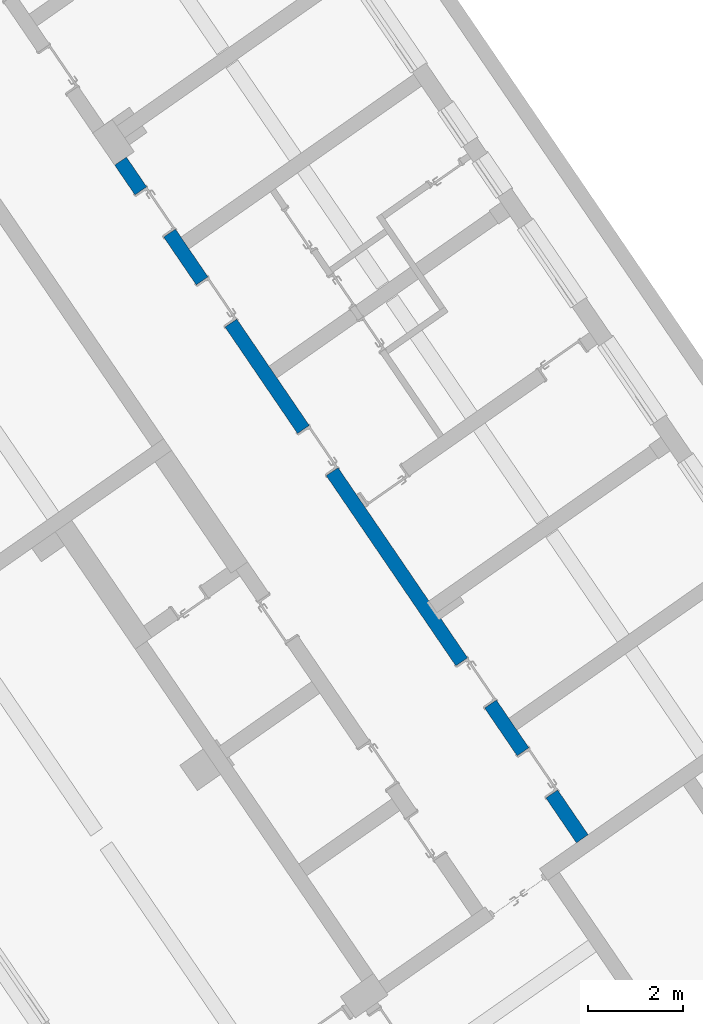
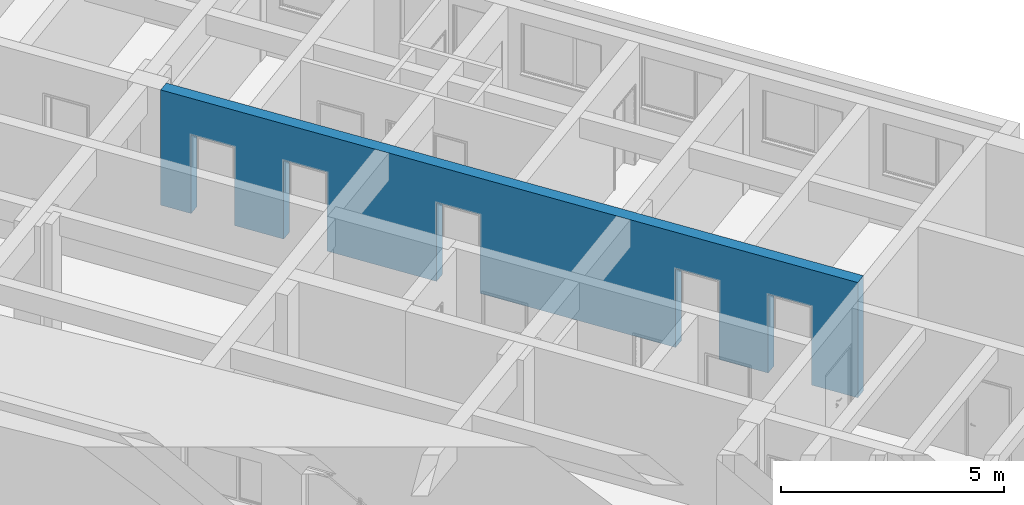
# One storey, part 49 of 112: 1 wall, 5 openings.
"""IFC2X3 building model written with IfcOpenShell, lengths in millimetres."""

from ifc_helpers import new_model, entity, si_unit, converted_unit, derived_unit, direction, frame, frame_2d, origin, place, context, subcontext, project, spatial, polyline, rectangle, outline, extrude, material, layer, layer_set, layer_usage, type_object, element, save


model = new_model("IFC2X3")

# Units and contexts
model_context = context("Model", 3, precision=0.01, world=origin(), true_north=direction((6.123031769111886e-17, 1.0)))
body_context = subcontext(model_context, "Body", "Model", "MODEL_VIEW")
ifc_project = project(units=[si_unit("LENGTHUNIT", "METRE", prefix="MILLI"), si_unit("AREAUNIT", "SQUARE_METRE"), si_unit("VOLUMEUNIT", "CUBIC_METRE"), converted_unit("PLANEANGLEUNIT", "DEGREE", entity("IfcRatioMeasure", 0.017453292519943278), si_unit("PLANEANGLEUNIT", "RADIAN"), dimensions=[0, 0, 0, 0, 0, 0, 0]), si_unit("MASSUNIT", "GRAM", prefix="KILO"), derived_unit("MASSDENSITYUNIT", [(si_unit("MASSUNIT", "GRAM", prefix="KILO"), 1), (si_unit("LENGTHUNIT", "METRE"), -3)]), derived_unit("MOMENTOFINERTIAUNIT", [(si_unit("LENGTHUNIT", "METRE"), 4)]), si_unit("TIMEUNIT", "SECOND"), si_unit("FREQUENCYUNIT", "HERTZ"), si_unit("THERMODYNAMICTEMPERATUREUNIT", "DEGREE_CELSIUS"), derived_unit("THERMALTRANSMITTANCEUNIT", [(si_unit("MASSUNIT", "GRAM", prefix="KILO"), 1), (si_unit("THERMODYNAMICTEMPERATUREUNIT", "KELVIN"), -1), (si_unit("TIMEUNIT", "SECOND"), -3)]), derived_unit("THERMALCONDUCTANCEUNIT", [(si_unit("MASSUNIT", "GRAM", prefix="KILO"), 1), (si_unit("LENGTHUNIT", "METRE"), 1), (si_unit("THERMODYNAMICTEMPERATUREUNIT", "KELVIN"), -1), (si_unit("TIMEUNIT", "SECOND"), -3)]), derived_unit("VOLUMETRICFLOWRATEUNIT", [(si_unit("LENGTHUNIT", "METRE"), 3), (si_unit("TIMEUNIT", "SECOND"), -1)]), derived_unit("MASSFLOWRATEUNIT", [(si_unit("MASSUNIT", "GRAM", prefix="KILO"), 1), (si_unit("TIMEUNIT", "SECOND"), -1)]), derived_unit("ROTATIONALFREQUENCYUNIT", [(si_unit("TIMEUNIT", "SECOND"), -1)]), si_unit("ELECTRICCURRENTUNIT", "AMPERE"), si_unit("ELECTRICVOLTAGEUNIT", "VOLT"), si_unit("POWERUNIT", "WATT"), converted_unit("FORCEUNIT", "KIP", entity("IfcRatioMeasure", 2.088543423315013e-05), si_unit("FORCEUNIT", "NEWTON"), dimensions=[1, 1, -2, 0, 0, 0, 0]), si_unit("ILLUMINANCEUNIT", "LUX"), si_unit("LUMINOUSFLUXUNIT", "LUMEN"), si_unit("LUMINOUSINTENSITYUNIT", "CANDELA"), derived_unit("USERDEFINED", [(si_unit("MASSUNIT", "GRAM", prefix="KILO"), -1), (si_unit("LENGTHUNIT", "METRE"), -2), (si_unit("TIMEUNIT", "SECOND"), 3), (si_unit("LUMINOUSFLUXUNIT", "LUMEN"), 1)]), derived_unit("USERDEFINED", [(si_unit("MASSUNIT", "GRAM", prefix="KILO"), 1), (si_unit("LENGTHUNIT", "METRE"), 3), (si_unit("TIMEUNIT", "SECOND"), -3), (si_unit("ELECTRICCURRENTUNIT", "AMPERE"), -2)]), derived_unit("USERDEFINED", [(si_unit("LENGTHUNIT", "METRE"), 2), (si_unit("TIMEUNIT", "SECOND"), -2)]), derived_unit("SOUNDPOWERUNIT", [(si_unit("MASSUNIT", "GRAM", prefix="KILO"), 1), (si_unit("LENGTHUNIT", "METRE"), 2), (si_unit("TIMEUNIT", "SECOND"), -3)]), derived_unit("SOUNDPRESSUREUNIT", [(si_unit("MASSUNIT", "GRAM", prefix="KILO"), 1), (si_unit("LENGTHUNIT", "METRE"), -1), (si_unit("TIMEUNIT", "SECOND"), -2)]), derived_unit("LINEARVELOCITYUNIT", [(si_unit("LENGTHUNIT", "METRE"), 1), (si_unit("TIMEUNIT", "SECOND"), -1)]), si_unit("PRESSUREUNIT", "PASCAL"), derived_unit("USERDEFINED", [(si_unit("LENGTHUNIT", "METRE"), -2), (si_unit("MASSUNIT", "GRAM", prefix="KILO"), 1), (si_unit("TIMEUNIT", "SECOND"), -2)]), derived_unit("LINEARFORCEUNIT", [(si_unit("MASSUNIT", "GRAM", prefix="KILO"), 1), (si_unit("LENGTHUNIT", "METRE"), 1), (si_unit("TIMEUNIT", "SECOND"), -2), (si_unit("LENGTHUNIT", "METRE"), -1)]), derived_unit("PLANARFORCEUNIT", [(si_unit("MASSUNIT", "GRAM", prefix="KILO"), 1), (si_unit("LENGTHUNIT", "METRE"), 1), (si_unit("TIMEUNIT", "SECOND"), -2), (si_unit("LENGTHUNIT", "METRE"), -2)]), derived_unit("SPECIFICHEATCAPACITYUNIT", [(si_unit("LENGTHUNIT", "METRE"), 2), (si_unit("TIMEUNIT", "SECOND"), -2), (si_unit("THERMODYNAMICTEMPERATUREUNIT", "KELVIN"), -1)]), derived_unit("VAPORPERMEABILITYUNIT", [(si_unit("TIMEUNIT", "SECOND"), 1), (si_unit("LENGTHUNIT", "METRE"), -1)]), derived_unit("DYNAMICVISCOSITYUNIT", [(si_unit("MASSUNIT", "GRAM", prefix="KILO"), 1), (si_unit("LENGTHUNIT", "METRE"), -1), (si_unit("TIMEUNIT", "SECOND"), -1)]), derived_unit("THERMALEXPANSIONCOEFFICIENTUNIT", [(si_unit("THERMODYNAMICTEMPERATUREUNIT", "KELVIN"), -1)])], contexts=[model_context])

# Site, building, storey
site_placement = place(None, frame((0.0, 0.0, 0.0), z_axis=(0.0, 0.0, 1.0), x_axis=(0.8191520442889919, 0.5735764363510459, 0.0)))
site = spatial("IfcSite", under=ifc_project, at=site_placement, Name="Default", CompositionType="ELEMENT")
building_placement = place(site_placement, origin())
building = spatial("IfcBuilding", under=site, at=building_placement, CompositionType="ELEMENT")
storey_placement = place(building_placement, frame((0.0, 0.0, -3600.0)))
storey = spatial("IfcBuildingStorey", under=building, at=storey_placement, Name="0.UG -3.60", CompositionType="ELEMENT", Elevation=-3600.0000000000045)

# Wall, openings
ifc_material = material(Name="Analytical Wall Surface_CJC")
ifc_layer = layer(ifc_material, 300.0)
ifc_layer_set = layer_set([ifc_layer], Name="Basic Wall:Wand_Innen_30")
ifc_layer_usage = layer_usage(ifc_layer_set, "AXIS2", "NEGATIVE", 150.0)
wall_type = type_object("IfcWallType", Name="Basic Wall:Wand_Innen_30", PredefinedType="STANDARD", material=ifc_layer_set)
wall_placement = place(storey_placement, frame((-211936.38487044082, 61569.44947620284, 300.0), z_axis=(0.0, 0.0, 1.0), x_axis=(0.01272958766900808, 0.9999189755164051, 0.0)))
wall = element("IfcWallStandardCase", 1, at=wall_placement, inside=storey, type_object=wall_type, material=ifc_layer_usage, Name="Basic Wall:Wand_Innen_30", ObjectType="Basic Wall:Wand_Innen_30", context=body_context, shape_type="SweptSolid", body=[
    extrude(outline(polyline([(3.819185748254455, -150.0), (2679.0359438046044, -150.0), (2979.060253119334, -150.0), (5654.277011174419, -150.0), (6004.305372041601, -150.0), (8379.49782078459, -150.0), (8679.52213009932, -150.0), (11654.763197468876, -150.0), (12004.791558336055, -150.0), (14980.032625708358, -150.0), (15280.056935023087, -150.0), (17326.514731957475, -150.0), (17326.514731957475, 150.0), (12000.972372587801, 150.0), (11650.944011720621, 150.0), (6000.486186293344, 150.0), (5650.457825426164, 150.0), (0.0, 150.0), (3.819185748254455, -150.0)])), origin(), (0.0, 0.0, 1.0), 3150.0),
])
opening_1_placement = place(wall_placement, frame((10466.514731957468, 150.0, 0.0)))
element("IfcOpeningElement", 2, at=opening_1_placement, cuts=wall, Name="Doors_IntSgl:100x210:1", ObjectType="Opening", context=body_context, shape_type="SweptSolid", body=[
    extrude(rectangle(XDim=2150.000000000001, YDim=1079.9999999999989, at=frame_2d((1075.0000000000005, 539.9999999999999), x_axis=(1.0, 0.0))), frame((0.0, 0.0, 0.0), z_axis=(0.0, -1.0, 0.0), x_axis=(0.0, 0.0, 1.0)), (0.0, 0.0, 1.0), 300.0),
])
opening_2_placement = place(wall_placement, frame((14266.152666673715, 150.0, 0.0)))
element("IfcOpeningElement", 3, at=opening_2_placement, cuts=wall, Name="Doors_IntSgl:100x210:1", ObjectType="Opening", context=body_context, shape_type="SweptSolid", body=[
    extrude(rectangle(XDim=2150.000000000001, YDim=1079.9999999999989, at=frame_2d((1075.0000000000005, 539.9999999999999), x_axis=(1.0, 0.0))), frame((0.0, 0.0, 0.0), z_axis=(0.0, -1.0, 0.0), x_axis=(0.0, 0.0, 1.0)), (0.0, 0.0, 1.0), 300.0),
])
opening_3_placement = place(wall_placement, frame((16566.514731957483, 150.0, 0.0)))
element("IfcOpeningElement", 4, at=opening_3_placement, cuts=wall, Name="Doors_IntSgl:100x210:1", ObjectType="Opening", context=body_context, shape_type="SweptSolid", body=[
    extrude(rectangle(XDim=2150.000000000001, YDim=1079.9999999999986, at=frame_2d((1075.0000000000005, 539.9999999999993), x_axis=(1.0, 0.0))), frame((0.0, 0.0, 0.0), z_axis=(0.0, -1.0, 0.0), x_axis=(0.0, 0.0, 1.0)), (0.0, 0.0, 1.0), 300.0),
])
opening_4_placement = place(wall_placement, frame((2226.5147319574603, 150.0, 0.0)))
element("IfcOpeningElement", 5, at=opening_4_placement, cuts=wall, Name="Doors_IntSgl:100x210:1", ObjectType="Opening", context=body_context, shape_type="SweptSolid", body=[
    extrude(rectangle(XDim=2150.000000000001, YDim=1079.9999999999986, at=frame_2d((1075.0000000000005, 539.9999999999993), x_axis=(1.0, 0.0))), frame((0.0, 0.0, 0.0), z_axis=(0.0, -1.0, 0.0), x_axis=(0.0, 0.0, 1.0)), (0.0, 0.0, 1.0), 300.0),
])
opening_5_placement = place(wall_placement, frame((4526.514731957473, 150.0, 0.0)))
element("IfcOpeningElement", 6, at=opening_5_placement, cuts=wall, Name="Doors_IntSgl:100x210:1", ObjectType="Opening", context=body_context, shape_type="SweptSolid", body=[
    extrude(rectangle(XDim=2150.000000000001, YDim=1079.9999999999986, at=frame_2d((1075.0000000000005, 539.9999999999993), x_axis=(1.0, 0.0))), frame((0.0, 0.0, 0.0), z_axis=(0.0, -1.0, 0.0), x_axis=(0.0, 0.0, 1.0)), (0.0, 0.0, 1.0), 300.0),
])

save(model, "model.ifc")
